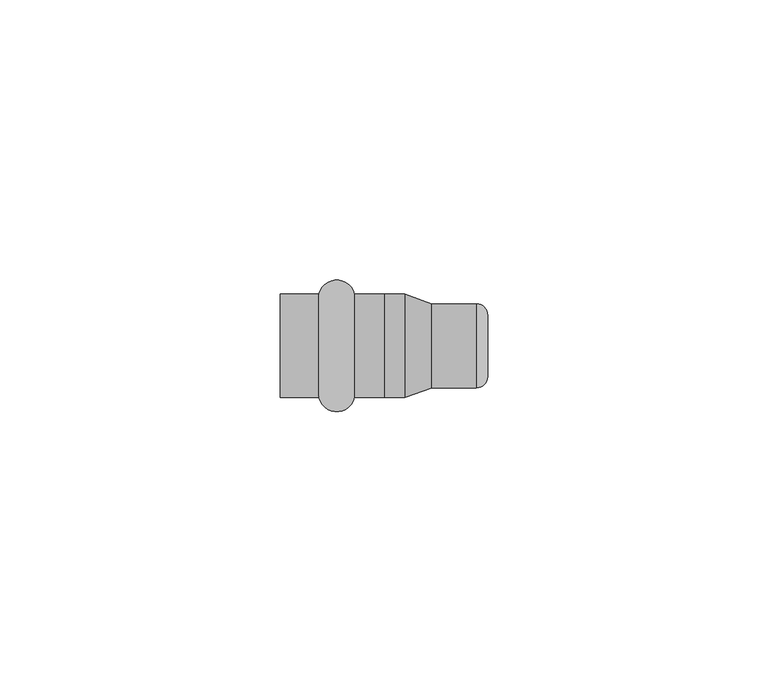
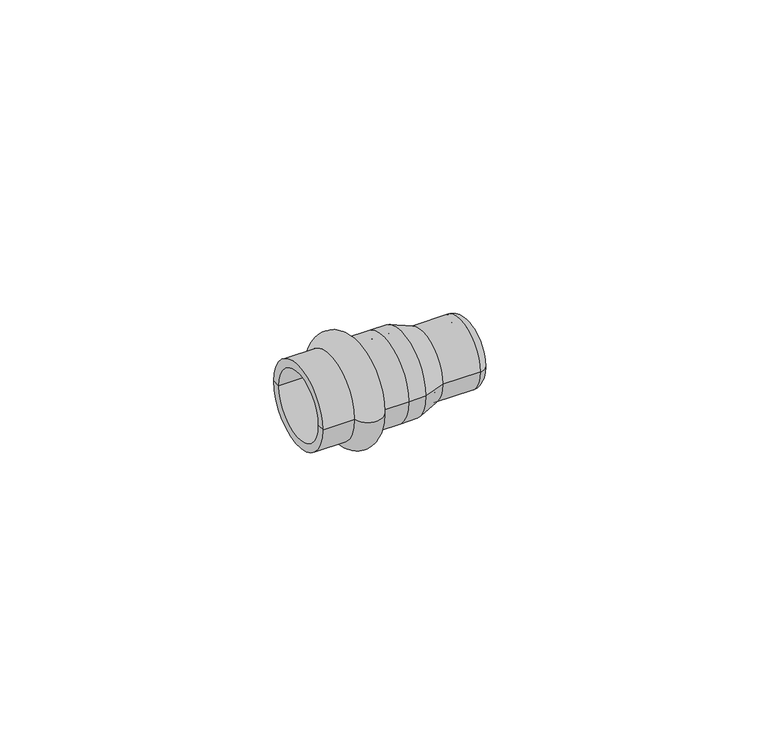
"""IFC4 building model written with IfcOpenShell, lengths in millimetres: pipe fitting geometry, VALTEC_VTi.961.I_Заглушка_нержавеющая : VTi.961.I."""

from ifc_helpers import new_model, si_unit, point, frame, origin, place, context, project, spatial, polyline, circle_curve, ellipse_curve, trimmed, source, transform, mapped, element, save
from ifc_brep_helpers import plane_surface, cylinder_surface, revolved_surface, advanced_brep


def pipe_fitting_740abbba(model_context):
    return source(origin(), model_context, "Body", "AdvancedBrep", [
        advanced_brep(
        [(6.8877223, -9.25, 0.0), (6.8877223, 9.25, 0.0), (13.2122777, 9.25, 0.0), (13.2122777, -9.25, 0.0), (0.0, -9.25, 0.0), (0.0, 9.25, 0.0), (0.0, -7.5, 0.0), (0.0, 7.5, 0.0), (18.5, -7.5, 0.0), (18.5, 7.5, 0.0), (18.5, -9.25, 0.0), (18.5, 9.25, 0.0)],
        [
            (0, 1, circle_curve(frame((6.8877223, 0.0, 0.0), z_axis=(1.0, 0.0, 0.0), x_axis=(0.0, 1.0, 0.0)), 9.25)),
            (1, 2, circle_curve(frame((10.05, 8.5, 0.0), z_axis=(0.0, 0.0, -1.0), x_axis=(1.0, 0.0, 0.0)), 3.25)),
            (2, 3, circle_curve(frame((13.2122777, 0.0, 0.0), z_axis=(-1.0, 0.0, 0.0), x_axis=(0.0, 1.0, 0.0)), 9.25)),
            (3, 0, circle_curve(frame((10.05, -8.5, 0.0), z_axis=(0.0, 0.0, -1.0), x_axis=(1.0, 0.0, 0.0)), 3.25)),
            (1, 0, circle_curve(frame((6.8877223, 0.0, 0.0), z_axis=(1.0, 0.0, 0.0), x_axis=(0.0, 1.0, 0.0)), 9.25)),
            (3, 2, circle_curve(frame((13.2122777, 0.0, 0.0), z_axis=(-1.0, 0.0, 0.0), x_axis=(0.0, 1.0, 0.0)), 9.25)),
            (4, 5, circle_curve(frame((0.0, 0.0, 0.0), z_axis=(1.0, 0.0, 0.0), x_axis=(0.0, 1.0, 0.0)), 9.25)),
            (5, 1),
            (0, 4),
            (5, 4, circle_curve(frame((0.0, 0.0, 0.0), z_axis=(1.0, 0.0, 0.0), x_axis=(0.0, 1.0, 0.0)), 9.25)),
            (6, 7, circle_curve(frame((0.0, 0.0, 0.0), z_axis=(1.0, 0.0, 0.0), x_axis=(0.0, 1.0, 0.0)), 7.5)),
            (7, 5),
            (4, 6),
            (7, 6, circle_curve(frame((0.0, 0.0, 0.0), z_axis=(1.0, 0.0, 0.0), x_axis=(0.0, 1.0, 0.0)), 7.5)),
            (8, 9, circle_curve(frame((18.5, 0.0, 0.0), z_axis=(1.0, 0.0, 0.0), x_axis=(0.0, 1.0, 0.0)), 7.5)),
            (9, 7),
            (6, 8),
            (9, 8, circle_curve(frame((18.5, 0.0, 0.0), z_axis=(1.0, 0.0, 0.0), x_axis=(0.0, 1.0, 0.0)), 7.5)),
            (10, 11, circle_curve(frame((18.5, 0.0, 0.0), z_axis=(1.0, 0.0, 0.0), x_axis=(0.0, 1.0, 0.0)), 9.25)),
            (11, 9),
            (8, 10),
            (11, 10, circle_curve(frame((18.5, 0.0, 0.0), z_axis=(1.0, 0.0, 0.0), x_axis=(0.0, 1.0, 0.0)), 9.25)),
            (2, 11),
            (10, 3),
        ],
        [
            revolved_surface(trimmed(ellipse_curve(frame((10.05, 8.5, 0.0), z_axis=(0.0, 0.0, 1.0), x_axis=(1.0, 0.0, 0.0)), 3.25, 3.25), [point((13.2122777, 9.25, 0.0))], [point((6.8877223, 9.25, 0.0))], True, "CARTESIAN"), (-3.5364426, 0.0, 0.0), (-1.0, 0.0, 0.0)),
            cylinder_surface(frame((-3.5364426, 0.0, 0.0), z_axis=(-1.0, 0.0, 0.0), x_axis=(0.0, 1.0, 0.0)), 9.25),
            plane_surface(frame((0.0, 0.0, 0.0), z_axis=(-1.0, 0.0, 0.0), x_axis=(0.0, 1.0, 0.0))),
            revolved_surface(polyline([(0.0, 7.5, 0.0), (18.5, 7.5, 0.0)]), (-3.5364426, 0.0, 0.0), (-1.0, 0.0, 0.0)),
            plane_surface(frame((18.5, 0.0, 0.0), z_axis=(1.0, 0.0, 0.0), x_axis=(0.0, 1.0, 0.0))),
        ],
        [
            (0, [[1, 2, 3, 4]]),
            (0, [[5, -4, 6, -2]]),
            (1, [[7, 8, -1, 9]]),
            (1, [[10, -9, -5, -8]]),
            (2, [[11, 12, -7, 13]]),
            (2, [[14, -13, -10, -12]]),
            (3, [[15, 16, -11, 17]]),
            (3, [[18, -17, -14, -16]]),
            (4, [[19, 20, -15, 21]]),
            (4, [[22, -21, -18, -20]]),
            (1, [[-3, 23, -19, 24]]),
            (1, [[-6, -24, -22, -23]]),
        ],
    ),
        advanced_brep(
        [(18.5, -9.25, 0.0), (18.5, 9.25, 0.0), (22.1919145, 9.25, 0.0), (22.1919145, -9.25, 0.0), (22.1919145, -7.5, 0.0), (22.1919145, 7.5, 0.0), (18.5, 7.5, 0.0), (18.5, -7.5, 0.0), (35.25, -5.75, 0.0), (35.25, 5.75, 0.0), (27.0, 5.75, 0.0), (27.0, -5.75, 0.0), (35.25, 0.0, 0.0), (37.0, -5.5, 0.0), (37.0, 5.5, 0.0), (37.0, 0.0, 0.0), (27.0, -7.5, 0.0), (27.0, 7.5, 0.0), (35.0, 7.5, 0.0), (35.0, -7.5, 0.0)],
        [
            (0, 1, circle_curve(frame((18.5, 0.0, 0.0), z_axis=(1.0, 0.0, 0.0), x_axis=(0.0, 1.0, 0.0)), 9.25)),
            (1, 2),
            (2, 3, circle_curve(frame((22.1919145, 0.0, 0.0), z_axis=(-1.0, 0.0, 0.0), x_axis=(0.0, 1.0, 0.0)), 9.25)),
            (3, 0),
            (1, 0, circle_curve(frame((18.5, 0.0, 0.0), z_axis=(1.0, 0.0, 0.0), x_axis=(0.0, 1.0, 0.0)), 9.25)),
            (3, 2, circle_curve(frame((22.1919145, 0.0, 0.0), z_axis=(-1.0, 0.0, 0.0), x_axis=(0.0, 1.0, 0.0)), 9.25)),
            (4, 5, circle_curve(frame((22.1919145, 0.0, 0.0), z_axis=(1.0, 0.0, 0.0), x_axis=(0.0, 1.0, 0.0)), 7.5)),
            (5, 6),
            (6, 7, circle_curve(frame((18.5, 0.0, 0.0), z_axis=(-1.0, 0.0, 0.0), x_axis=(0.0, 1.0, 0.0)), 7.5)),
            (7, 4),
            (5, 4, circle_curve(frame((22.1919145, 0.0, 0.0), z_axis=(1.0, 0.0, 0.0), x_axis=(0.0, 1.0, 0.0)), 7.5)),
            (7, 6, circle_curve(frame((18.5, 0.0, 0.0), z_axis=(-1.0, 0.0, 0.0), x_axis=(0.0, 1.0, 0.0)), 7.5)),
            (6, 1),
            (0, 7),
            (8, 9, circle_curve(frame((35.25, 0.0, 0.0), z_axis=(1.0, 0.0, 0.0), x_axis=(0.0, 1.0, 0.0)), 5.75)),
            (9, 10),
            (10, 11, circle_curve(frame((27.0, 0.0, 0.0), z_axis=(-1.0, 0.0, 0.0), x_axis=(0.0, 1.0, 0.0)), 5.75)),
            (11, 8),
            (9, 8, circle_curve(frame((35.25, 0.0, 0.0), z_axis=(1.0, 0.0, 0.0), x_axis=(0.0, 1.0, 0.0)), 5.75)),
            (11, 10, circle_curve(frame((27.0, 0.0, 0.0), z_axis=(-1.0, 0.0, 0.0), x_axis=(0.0, 1.0, 0.0)), 5.75)),
            (12, 9),
            (8, 12),
            (13, 14, circle_curve(frame((37.0, 0.0, 0.0), z_axis=(1.0, 0.0, 0.0), x_axis=(0.0, 1.0, 0.0)), 5.5)),
            (14, 15),
            (15, 13),
            (14, 13, circle_curve(frame((37.0, 0.0, 0.0), z_axis=(1.0, 0.0, 0.0), x_axis=(0.0, 1.0, 0.0)), 5.5)),
            (16, 17, circle_curve(frame((27.0, 0.0, 0.0), z_axis=(1.0, 0.0, 0.0), x_axis=(0.0, 1.0, 0.0)), 7.5)),
            (17, 18),
            (18, 19, circle_curve(frame((35.0, 0.0, 0.0), z_axis=(-1.0, 0.0, 0.0), x_axis=(0.0, 1.0, 0.0)), 7.5)),
            (19, 16),
            (17, 16, circle_curve(frame((27.0, 0.0, 0.0), z_axis=(1.0, 0.0, 0.0), x_axis=(0.0, 1.0, 0.0)), 7.5)),
            (19, 18, circle_curve(frame((35.0, 0.0, 0.0), z_axis=(-1.0, 0.0, 0.0), x_axis=(0.0, 1.0, 0.0)), 7.5)),
            (2, 17),
            (16, 3),
            (10, 5),
            (4, 11),
            (18, 14, circle_curve(frame((35.0, 5.5, 0.0), z_axis=(0.0, 0.0, -1.0), x_axis=(1.0, 0.0, 0.0)), 2.0)),
            (13, 19, circle_curve(frame((35.0, -5.5, 0.0), z_axis=(0.0, 0.0, -1.0), x_axis=(1.0, 0.0, 0.0)), 2.0)),
        ],
        [
            cylinder_surface(frame((-40.0167378, 0.0, 0.0), z_axis=(-1.0, 0.0, 0.0), x_axis=(0.0, 1.0, 0.0)), 9.25),
            revolved_surface(polyline([(18.5, 7.5, 0.0), (22.191914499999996, 7.5, 0.0)]), (-40.0167378, 0.0, 0.0), (-1.0, 0.0, 0.0)),
            plane_surface(frame((18.5, 0.0, 0.0), z_axis=(-1.0, 0.0, 0.0), x_axis=(0.0, 1.0, 0.0))),
            revolved_surface(polyline([(27.0, 5.75, 0.0), (35.25, 5.75, 0.0)]), (-40.0167378, 0.0, 0.0), (-1.0, 0.0, 0.0)),
            plane_surface(frame((35.25, 0.0, 0.0), z_axis=(-1.0, 0.0, 0.0), x_axis=(0.0, 1.0, 0.0))),
            plane_surface(frame((37.0, 0.0, 0.0), z_axis=(1.0, 0.0, 0.0), x_axis=(0.0, 1.0, 0.0))),
            cylinder_surface(frame((-40.0167378, 0.0, 0.0), z_axis=(-1.0, 0.0, 0.0), x_axis=(0.0, 1.0, 0.0)), 7.5),
            revolved_surface(polyline([(27.0, 7.5, 0.0), (22.1919145, 9.25, 0.0)]), (-40.0167378, 0.0, 0.0), (-1.0, 0.0, 0.0)),
            revolved_surface(polyline([(22.1919145, 7.5, 0.0), (27.0, 5.75, 0.0)]), (-40.0167378, 0.0, 0.0), (-1.0, 0.0, 0.0)),
            revolved_surface(trimmed(ellipse_curve(frame((35.0, 5.5, 0.0), z_axis=(0.0, 0.0, 1.0), x_axis=(1.0, 0.0, 0.0)), 2.0, 2.0), [point((37.0, 5.5, 0.0))], [point((35.0, 7.5, 0.0))], True, "CARTESIAN"), (-40.0167378, 0.0, 0.0), (-1.0, 0.0, 0.0)),
        ],
        [
            (0, [[1, 2, 3, 4]]),
            (0, [[5, -4, 6, -2]]),
            (1, [[7, 8, 9, 10]]),
            (1, [[11, -10, 12, -8]]),
            (2, [[-9, 13, -1, 14]]),
            (2, [[-12, -14, -5, -13]]),
            (3, [[15, 16, 17, 18]]),
            (3, [[19, -18, 20, -16]]),
            (4, [[21, -15, 22]]),
            (4, [[-22, -19, -21]]),
            (5, [[23, 24, 25]]),
            (5, [[26, -25, -24]]),
            (6, [[27, 28, 29, 30]]),
            (6, [[31, -30, 32, -28]]),
            (7, [[-3, 33, -27, 34]]),
            (7, [[-6, -34, -31, -33]]),
            (8, [[-17, 35, -7, 36]]),
            (8, [[-20, -36, -11, -35]]),
            (9, [[-29, 37, -23, 38]]),
            (9, [[-32, -38, -26, -37]]),
        ],
    ),
    ])


if __name__ == "__main__":
    model = new_model("IFC4")
    model_context = context("Model", 3, world=origin())
    ifc_project = project(units=[si_unit("LENGTHUNIT", "METRE", prefix="MILLI")], contexts=[model_context])
    site = spatial("IfcSite", under=ifc_project)
    building = spatial("IfcBuilding", under=site)
    placement = place(None, origin())
    pipe_fitting_shape = pipe_fitting_740abbba(model_context)
    element("IfcPipeFitting", 1, ObjectType="VALTEC_VTi.961.I_Заглушка_нержавеющая : VTi.961.I", at=placement, inside=building, context=model_context, shape_type="MappedRepresentation", body=[
        mapped(pipe_fitting_shape, transform((0.0, 0.0, 0.0), x_axis=(1.0, 0.0, 0.0), y_axis=(0.0, 1.0, 0.0), z_axis=(0.0, 0.0, 1.0))),
    ])
    save(model, "model.ifc")
